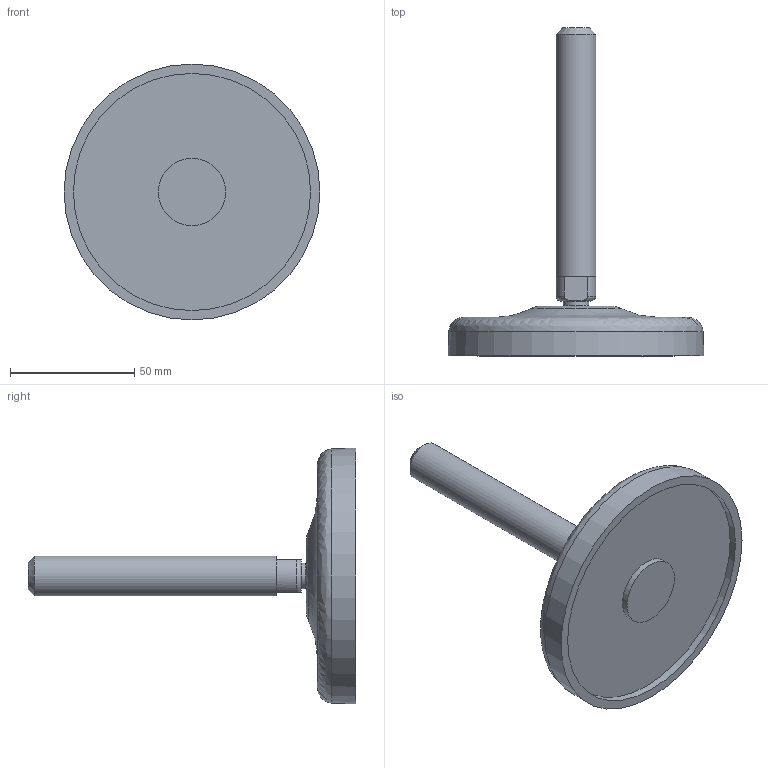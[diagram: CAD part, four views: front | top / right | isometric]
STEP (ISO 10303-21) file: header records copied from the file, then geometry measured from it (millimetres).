
FILE_DESCRIPTION(('STEP AP203'),'2;1');
FILE_NAME('18550.stp','2015-02-13T10:37:43',(''),(''),'2008.1.107','THINKDESIGN','');
FILE_SCHEMA(('CONFIG_CONTROL_DESIGN'));
Length unit declared in the file: millimetre
Bounding box: 103 x 132 x 103 mm (x, y, z)
Volume: 135300.2 mm3; surface area: 28504.7 mm2
Topology: 3 solids, 3 shells, 24 faces, 58 edges, 44 vertices
Faces by surface type: plane 11, bspline 7, cylinder 6
Full cylindrical faces by diameter (mm): 10.292 x1, 16 x1, 27 x1, 95.5 x1
Entity records: 1231 total; most frequent: CARTESIAN_POINT 462, DIRECTION 131, ORIENTED_EDGE 112, AXIS2_PLACEMENT_3D 59, EDGE_CURVE 56, VERTEX_POINT 42, CIRCLE 42, EDGE_LOOP 28
